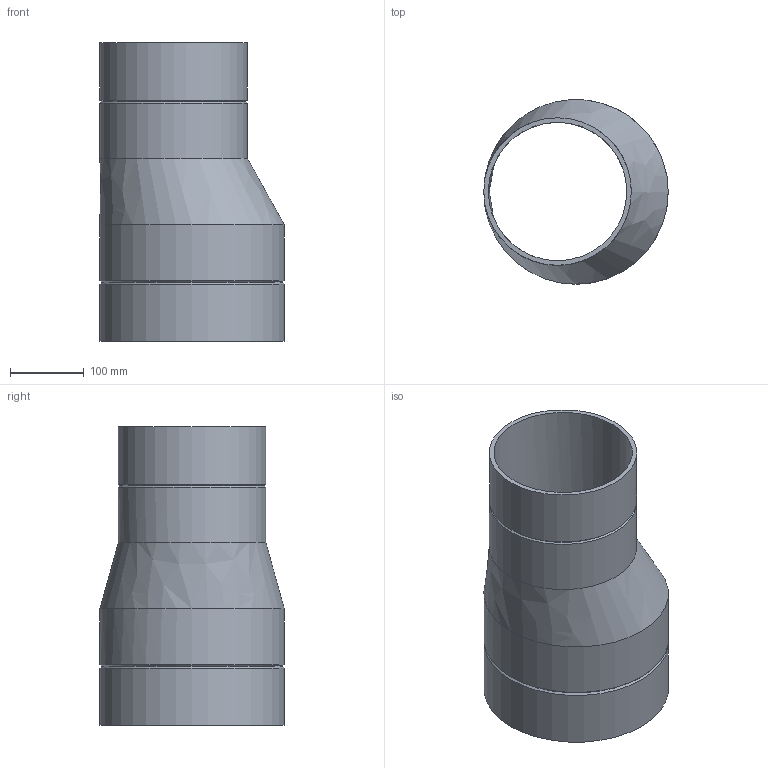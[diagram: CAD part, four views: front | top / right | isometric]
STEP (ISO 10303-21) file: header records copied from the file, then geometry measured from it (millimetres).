
FILE_DESCRIPTION(/* description */ (''),/* implementation_level */ '2;1');
FILE_NAME(/* name */ 'Z:\Geberit\Export\NewStep\371596.stp',/* time_stamp */ '2014-04-02T08:05:36+02:00',/* author */ ('nelson'),/* organization */ (''),/* preprocessor_version */ 'ST-DEVELOPER v15.2',/* originating_system */ 'Autodesk Inventor 2014',/* authorisation */ '');
FILE_SCHEMA (('AUTOMOTIVE_DESIGN { 1 0 10303 214 3 1 1 }'));
Length unit declared in the file: millimetre
Products named in the file (1): 371596
Bounding box: 250 x 250 x 405 mm (x, y, z)
Volume: 1956141.8 mm3; surface area: 573695.3 mm2
Topology: 1 solids, 1 shells, 14 faces, 38 edges, 26 vertices
Faces by surface type: cylinder 6, cone 4, bspline 2, plane 2
Full cylindrical faces by diameter (mm): 187.6 x1, 200 x2, 234.4 x1, 250 x2
Entity records: 417 total; most frequent: CARTESIAN_POINT 93, DIRECTION 66, ORIENTED_EDGE 44, AXIS2_PLACEMENT_3D 33, EDGE_LOOP 26, EDGE_CURVE 22, CIRCLE 20, VERTEX_POINT 20
